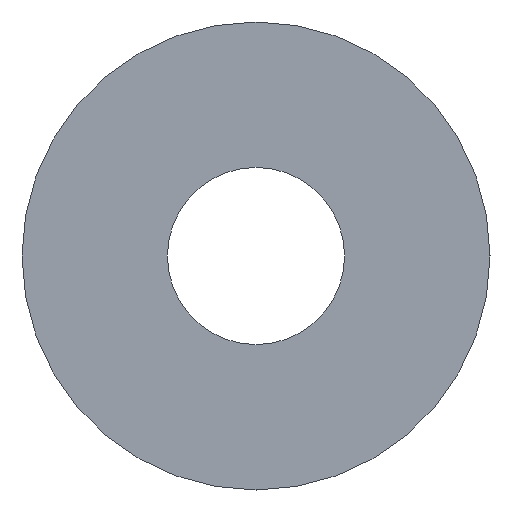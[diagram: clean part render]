
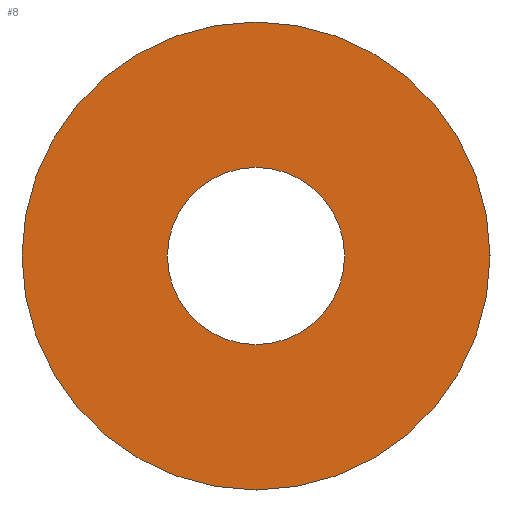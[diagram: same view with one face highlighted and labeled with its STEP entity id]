
A CAD part, front view. The second image highlights one B-rep face of the part: STEP entity #8.
In plain terms, the highlighted planar face has unit normal (0, -1, 0).
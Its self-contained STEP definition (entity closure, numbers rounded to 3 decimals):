
#5 = CIRCLE ( 'NONE', #48, 2.65 ) ;
#8 = ADVANCED_FACE ( 'NONE', ( #105, #71 ), #91, .F. ) ;
#12 = DIRECTION ( 'NONE',  ( 0., 1., 0. ) ) ;
#17 = DIRECTION ( 'NONE',  ( 0., 0., 1. ) ) ;
#22 = CARTESIAN_POINT ( 'NONE',  ( 0., 0., 7. ) ) ;
#24 = DIRECTION ( 'NONE',  ( 0., 1., 0. ) ) ;
#27 = CARTESIAN_POINT ( 'NONE',  ( 0., 0., 0. ) ) ;
#32 = CIRCLE ( 'NONE', #101, 7. ) ;
#33 = VERTEX_POINT ( 'NONE', #78 ) ;
#35 = VERTEX_POINT ( 'NONE', #22 ) ;
#39 = DIRECTION ( 'NONE',  ( 0., 1., 0. ) ) ;
#40 = EDGE_LOOP ( 'NONE', ( #50 ) ) ;
#42 = AXIS2_PLACEMENT_3D ( 'NONE', #92, #39, #102 ) ;
#47 = DIRECTION ( 'NONE',  ( 0., 0., 1. ) ) ;
#48 = AXIS2_PLACEMENT_3D ( 'NONE', #112, #24, #17 ) ;
#49 = EDGE_CURVE ( 'NONE', #33, #33, #5, .T. ) ;
#50 = ORIENTED_EDGE ( 'NONE', *, *, #49, .T. ) ;
#71 = FACE_BOUND ( 'NONE', #40, .T. ) ;
#75 = EDGE_CURVE ( 'NONE', #35, #35, #32, .T. ) ;
#78 = CARTESIAN_POINT ( 'NONE',  ( 0., 0., 2.65 ) ) ;
#80 = ORIENTED_EDGE ( 'NONE', *, *, #75, .F. ) ;
#91 = PLANE ( 'NONE',  #42 ) ;
#92 = CARTESIAN_POINT ( 'NONE',  ( 2.65, 0., 0. ) ) ;
#101 = AXIS2_PLACEMENT_3D ( 'NONE', #27, #12, #47 ) ;
#102 = DIRECTION ( 'NONE',  ( 0., 0., 1. ) ) ;
#104 = EDGE_LOOP ( 'NONE', ( #80 ) ) ;
#105 = FACE_OUTER_BOUND ( 'NONE', #104, .T. ) ;
#112 = CARTESIAN_POINT ( 'NONE',  ( 0., 0., 0. ) ) ;
